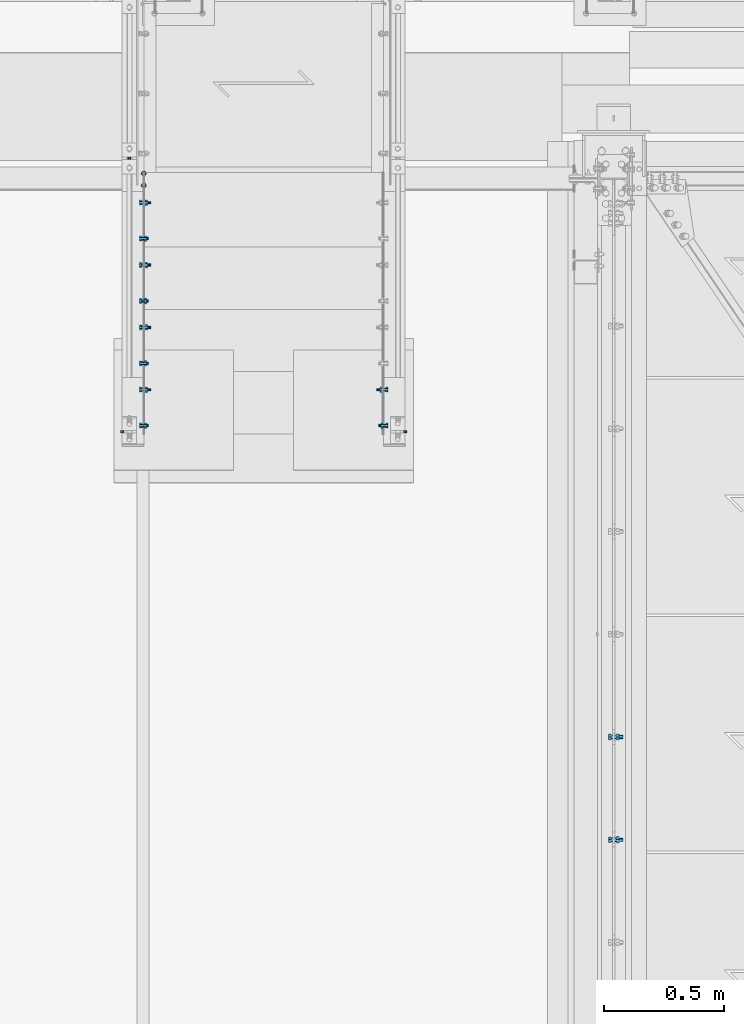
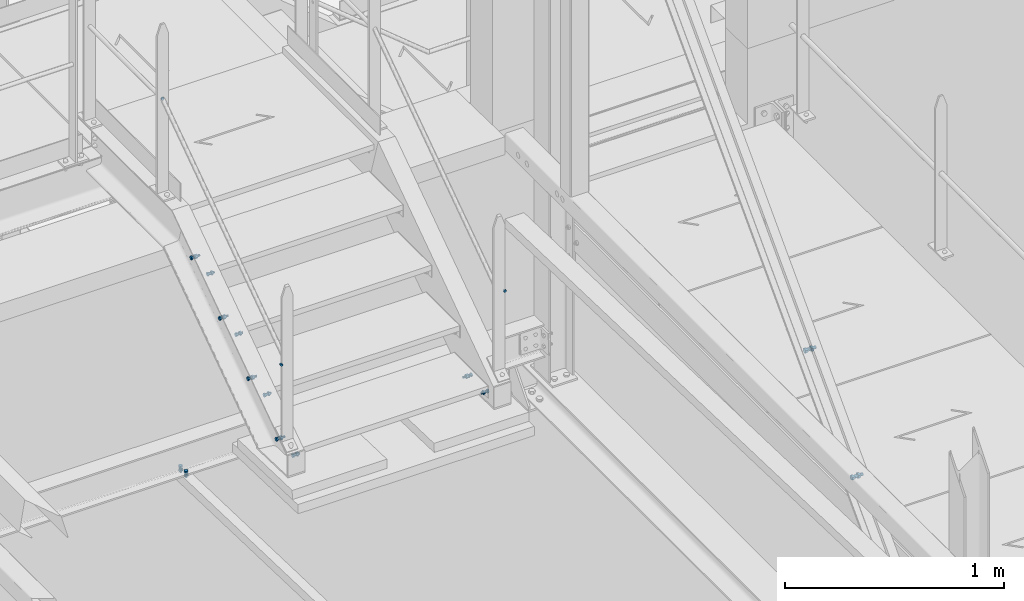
# One storey, part 287 of 362: 16 mechanical fasteners.
"""IFC2X3 building model written with IfcOpenShell, lengths in millimetres."""

from ifc_helpers import new_model, si_unit, frame, frame_2d, origin_with_axes, origin_2d_with_axis, place, context, subcontext, project, spatial, polyline, circle_curve, parameter, trimmed, segment, composite_curve, circle, outline, extrude, source, transform, mapped, material, type_object, element, save


model = new_model("IFC2X3")

# Units and contexts
model_context = context("Model", 3, precision=1e-05, world=origin_with_axes())
body_context = subcontext(model_context, "Body", "Model", "MODEL_VIEW")
ifc_project = project(units=[si_unit("LENGTHUNIT", "METRE", prefix="MILLI"), si_unit("AREAUNIT", "SQUARE_METRE"), si_unit("VOLUMEUNIT", "CUBIC_METRE"), si_unit("MASSUNIT", "GRAM", prefix="KILO"), si_unit("TIMEUNIT", "SECOND"), si_unit("PLANEANGLEUNIT", "RADIAN"), si_unit("SOLIDANGLEUNIT", "STERADIAN"), si_unit("THERMODYNAMICTEMPERATUREUNIT", "DEGREE_CELSIUS"), si_unit("LUMINOUSINTENSITYUNIT", "LUMEN")], contexts=[model_context])

# Site, building, storey
site_placement = place(None, origin_with_axes())
site = spatial("IfcSite", under=ifc_project, at=site_placement, Name="Undefined", CompositionType="ELEMENT")
building_placement = place(site_placement, origin_with_axes())
building = spatial("IfcBuilding", under=site, at=building_placement, Name="Undefined", CompositionType="ELEMENT")
storey_placement = place(building_placement, origin_with_axes())
storey = spatial("IfcBuildingStorey", under=building, at=storey_placement, Name="Undefined", CompositionType="ELEMENT", Elevation=0.0)

# Mechanical fasteners
ifc_material_1 = material(Name="6.8")
mechanical_fastener_type = type_object("IfcMechanicalFastenerType", Name="Bolt assembly")
shared_shape_1 = source(origin_with_axes(), body_context, "Body", "SweptSolid", [
    extrude(circle(Radius=7.0, at=origin_2d_with_axis()), frame((0.0, 6.26397177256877e-05, 0.0), z_axis=(0.0, 1.0, 0.0), x_axis=(1.0, 0.0, 0.0)), (0.0, 0.0, 1.0), 10.1),
])
mechanical_fastener_1_placement = place(storey_placement, frame((21449.9863365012, 15290.0038659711, 9438.8), z_axis=(0.0, 0.0, -1.0), x_axis=(1.0, 0.0, 0.0)))
element("IfcMechanicalFastener", 1, at=mechanical_fastener_1_placement, inside=storey, type_object=mechanical_fastener_type, material=ifc_material_1, Name="Bolt assembly", NominalDiameter=12.0, NominalLength=10.0, context=body_context, shape_type="MappedRepresentation", body=[
    mapped(shared_shape_1, transform((0.0, 0.0, 0.0))),
])
shared_shape_2 = source(origin_with_axes(), body_context, "Body", "SweptSolid", [
    extrude(circle(Radius=7.0, at=origin_2d_with_axis()), frame((0.0, 0.000125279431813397, 0.0), z_axis=(0.0, 1.0, 0.0), x_axis=(1.0, 0.0, 0.0)), (0.0, 0.0, 1.0), 10.1),
])
for number, where, z_axis, x_axis, name in (
    (2, (21419.9864722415, 14149.9999163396, 8654.59997578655), (0.0, 0.0, -1.0), (1.0, 0.0, 0.0), "Bolt assembly"),
    (3, (22599.9935277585, 14149.9999163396, 8654.59997578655), (0.0, 0.0, 1.0), (-1.0, 0.0, 0.0), "Bolt assembly"),
):
    element("IfcMechanicalFastener", number, at=place(storey_placement, frame(where, z_axis=z_axis, x_axis=x_axis)), inside=storey, type_object=mechanical_fastener_type, material=ifc_material_1, Name=name, NominalDiameter=12.0, NominalLength=10.0, context=body_context, shape_type="MappedRepresentation", body=[
        mapped(shared_shape_2, transform((0.0, 0.0, 0.0))),
    ])
ifc_material_2 = material(Name="8.8-SB-GALVA")
shared_shape_3 = source(origin_with_axes(), body_context, "Body", "SweptSolid", [
    extrude(circle(Radius=7.0, at=origin_2d_with_axis()), frame((0.0, -9.89886282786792, 0.0), z_axis=(0.0, 1.0, 0.0), x_axis=(1.0, 0.0, 0.0)), (0.0, 0.0, 1.0), 10.0),
    extrude(circle(Radius=7.0, at=origin_2d_with_axis()), frame((0.0, -0.100011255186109, 0.0), z_axis=(0.0, 1.0, 0.0), x_axis=(1.0, 0.0, 0.0)), (0.0, 0.0, 1.0), 3.1),
    extrude(outline(polyline([(10.39230484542, 0.0), (5.19615242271, 9.00000000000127), (-5.19615242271, 9.00000000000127), (-10.39230484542, 0.0), (-5.19615242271, -9.00000000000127), (5.19615242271, -9.00000000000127), (10.39230484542, 0.0)])), frame((0.0, -17.9188628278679, 0.0), z_axis=(0.0, 1.0, 0.0), x_axis=(1.0, 0.0, 0.0)), (0.0, 0.0, 1.0), 7.92),
    extrude(circle(Radius=6.0, at=origin_2d_with_axis()), frame((0.0, -9.99886282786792, 0.0), z_axis=(0.0, 1.0, 0.0), x_axis=(1.0, 0.0, 0.0)), (0.0, 0.0, 1.0), 30.0),
    extrude(outline(polyline([(11.5008173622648, 0.0), (5.7504086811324, 9.96000000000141), (-5.7504086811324, 9.96000000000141), (-11.5008173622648, 0.0), (-5.7504086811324, -9.96000000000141), (5.7504086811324, -9.96000000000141), (11.5008173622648, 0.0)])), frame((0.0, 3.00000067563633, 0.0), z_axis=(0.0, 1.0, 0.0), x_axis=(1.0, 0.0, 0.0)), (0.0, 0.0, 1.0), 7.92),
])
mechanical_fastener_2_placement = place(storey_placement, frame((22509.9947340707, 14169.9997910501, 8105.0000000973), z_axis=(0.0, 0.0, 1.0), x_axis=(0.0, 1.0, 0.0)))
element("IfcMechanicalFastener", 4, at=mechanical_fastener_2_placement, inside=storey, type_object=mechanical_fastener_type, material=ifc_material_2, Name="Bolt assembly", NominalDiameter=12.0, NominalLength=30.0, context=body_context, shape_type="MappedRepresentation", body=[
    mapped(shared_shape_3, transform((0.0, 0.0, 0.0))),
])
shared_shape_4 = source(origin_with_axes(), body_context, "Body", "SweptSolid", [
    extrude(circle(Radius=7.0, at=origin_2d_with_axis()), frame((0.0, -9.88995939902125, 0.0), z_axis=(0.0, 1.0, 0.0), x_axis=(1.0, 0.0, 0.0)), (0.0, 0.0, 1.0), 10.0),
    extrude(circle(Radius=7.0, at=origin_2d_with_axis()), frame((0.0, -0.100011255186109, 0.0), z_axis=(0.0, 1.0, 0.0), x_axis=(1.0, 0.0, 0.0)), (0.0, 0.0, 1.0), 3.1),
    extrude(outline(polyline([(10.39230484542, 0.0), (5.19615242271, 9.00000000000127), (-5.19615242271, 9.00000000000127), (-10.39230484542, 0.0), (-5.19615242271, -9.00000000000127), (5.19615242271, -9.00000000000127), (10.39230484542, 0.0)])), frame((0.0, -17.9099593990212, 0.0), z_axis=(0.0, 1.0, 0.0), x_axis=(1.0, 0.0, 0.0)), (0.0, 0.0, 1.0), 7.92),
    extrude(circle(Radius=6.0, at=origin_2d_with_axis()), frame((0.0, -9.98995939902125, 0.0), z_axis=(0.0, 1.0, 0.0), x_axis=(1.0, 0.0, 0.0)), (0.0, 0.0, 1.0), 30.0),
    extrude(outline(polyline([(11.5008173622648, 0.0), (5.7504086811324, 9.96000000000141), (-5.7504086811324, 9.96000000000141), (-11.5008173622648, 0.0), (-5.7504086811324, -9.96000000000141), (5.7504086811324, -9.96000000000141), (11.5008173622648, 0.0)])), frame((0.0, 3.00000067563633, 0.0), z_axis=(0.0, 1.0, 0.0), x_axis=(1.0, 0.0, 0.0)), (0.0, 0.0, 1.0), 7.92),
])
mechanical_fastener_3_placement = place(storey_placement, frame((21509.9947340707, 14949.9997910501, 8645.0), z_axis=(0.0, 0.0, -1.0), x_axis=(0.0, 1.0, 0.0)))
element("IfcMechanicalFastener", 5, at=mechanical_fastener_3_placement, inside=storey, type_object=mechanical_fastener_type, material=ifc_material_2, Name="Bolt assembly", NominalDiameter=12.0, NominalLength=30.0, context=body_context, shape_type="MappedRepresentation", body=[
    mapped(shared_shape_4, transform((0.0, 0.0, 0.0))),
])
shared_shape_5 = source(origin_with_axes(), body_context, "Body", "SweptSolid", [
    extrude(circle(Radius=7.0, at=origin_2d_with_axis()), frame((0.0, -9.88941643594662, 0.0), z_axis=(0.0, 1.0, 0.0), x_axis=(1.0, 0.0, 0.0)), (0.0, 0.0, 1.0), 10.0),
    extrude(circle(Radius=7.0, at=origin_2d_with_axis()), frame((0.0, -0.100011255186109, 0.0), z_axis=(0.0, 1.0, 0.0), x_axis=(1.0, 0.0, 0.0)), (0.0, 0.0, 1.0), 3.1),
    extrude(outline(polyline([(10.39230484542, 0.0), (5.19615242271, 9.00000000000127), (-5.19615242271, 9.00000000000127), (-10.39230484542, 0.0), (-5.19615242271, -9.00000000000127), (5.19615242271, -9.00000000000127), (10.39230484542, 0.0)])), frame((0.0, -17.9094164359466, 0.0), z_axis=(0.0, 1.0, 0.0), x_axis=(1.0, 0.0, 0.0)), (0.0, 0.0, 1.0), 7.92),
    extrude(circle(Radius=6.0, at=origin_2d_with_axis()), frame((0.0, -9.98941643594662, 0.0), z_axis=(0.0, 1.0, 0.0), x_axis=(1.0, 0.0, 0.0)), (0.0, 0.0, 1.0), 30.0),
    extrude(outline(polyline([(11.5008173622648, 0.0), (5.7504086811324, 9.96000000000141), (-5.7504086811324, 9.96000000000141), (-11.5008173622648, 0.0), (-5.7504086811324, -9.96000000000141), (5.7504086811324, -9.96000000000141), (11.5008173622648, 0.0)])), frame((0.0, 3.00000067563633, 0.0), z_axis=(0.0, 1.0, 0.0), x_axis=(1.0, 0.0, 0.0)), (0.0, 0.0, 1.0), 7.92),
])
mechanical_fastener_4_placement = place(storey_placement, frame((21509.9947340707, 14689.9997910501, 8465.00000004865), z_axis=(0.0, 0.0, -1.0), x_axis=(0.0, 1.0, 0.0)))
element("IfcMechanicalFastener", 6, at=mechanical_fastener_4_placement, inside=storey, type_object=mechanical_fastener_type, material=ifc_material_2, Name="Bolt assembly", NominalDiameter=12.0, NominalLength=30.0, context=body_context, shape_type="MappedRepresentation", body=[
    mapped(shared_shape_5, transform((0.0, 0.0, 0.0))),
])
shared_shape_6 = source(origin_with_axes(), body_context, "Body", "SweptSolid", [
    extrude(circle(Radius=7.0, at=origin_2d_with_axis()), frame((0.0, -9.888873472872, 0.0), z_axis=(0.0, 1.0, 0.0), x_axis=(1.0, 0.0, 0.0)), (0.0, 0.0, 1.0), 10.0),
    extrude(circle(Radius=7.0, at=origin_2d_with_axis()), frame((0.0, -0.100011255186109, 0.0), z_axis=(0.0, 1.0, 0.0), x_axis=(1.0, 0.0, 0.0)), (0.0, 0.0, 1.0), 3.1),
    extrude(outline(polyline([(10.39230484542, 0.0), (5.19615242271, 9.00000000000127), (-5.19615242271, 9.00000000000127), (-10.39230484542, 0.0), (-5.19615242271, -9.00000000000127), (5.19615242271, -9.00000000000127), (10.39230484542, 0.0)])), frame((0.0, -17.908873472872, 0.0), z_axis=(0.0, 1.0, 0.0), x_axis=(1.0, 0.0, 0.0)), (0.0, 0.0, 1.0), 7.92),
    extrude(circle(Radius=6.0, at=origin_2d_with_axis()), frame((0.0, -9.988873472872, 0.0), z_axis=(0.0, 1.0, 0.0), x_axis=(1.0, 0.0, 0.0)), (0.0, 0.0, 1.0), 30.0),
    extrude(outline(polyline([(11.5008173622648, 0.0), (5.7504086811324, 9.96000000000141), (-5.7504086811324, 9.96000000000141), (-11.5008173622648, 0.0), (-5.7504086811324, -9.96000000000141), (5.7504086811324, -9.96000000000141), (11.5008173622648, 0.0)])), frame((0.0, 3.00000067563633, 0.0), z_axis=(0.0, 1.0, 0.0), x_axis=(1.0, 0.0, 0.0)), (0.0, 0.0, 1.0), 7.92),
])
mechanical_fastener_5_placement = place(storey_placement, frame((21509.9947340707, 14429.9997910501, 8285.00000007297), z_axis=(0.0, 0.0, -1.0), x_axis=(0.0, 1.0, 0.0)))
element("IfcMechanicalFastener", 7, at=mechanical_fastener_5_placement, inside=storey, type_object=mechanical_fastener_type, material=ifc_material_2, Name="Bolt assembly", NominalDiameter=12.0, NominalLength=30.0, context=body_context, shape_type="MappedRepresentation", body=[
    mapped(shared_shape_6, transform((0.0, 0.0, 0.0))),
])
shared_shape_7 = source(origin_with_axes(), body_context, "Body", "SweptSolid", [
    extrude(circle(Radius=7.0, at=origin_2d_with_axis()), frame((0.0, -9.88833050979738, 0.0), z_axis=(0.0, 1.0, 0.0), x_axis=(1.0, 0.0, 0.0)), (0.0, 0.0, 1.0), 10.0),
    extrude(circle(Radius=7.0, at=origin_2d_with_axis()), frame((0.0, -0.100011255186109, 0.0), z_axis=(0.0, 1.0, 0.0), x_axis=(1.0, 0.0, 0.0)), (0.0, 0.0, 1.0), 3.1),
    extrude(outline(polyline([(10.39230484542, 0.0), (5.19615242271, 9.00000000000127), (-5.19615242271, 9.00000000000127), (-10.39230484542, 0.0), (-5.19615242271, -9.00000000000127), (5.19615242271, -9.00000000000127), (10.39230484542, 0.0)])), frame((0.0, -17.9083305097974, 0.0), z_axis=(0.0, 1.0, 0.0), x_axis=(1.0, 0.0, 0.0)), (0.0, 0.0, 1.0), 7.92),
    extrude(circle(Radius=6.0, at=origin_2d_with_axis()), frame((0.0, -9.98833050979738, 0.0), z_axis=(0.0, 1.0, 0.0), x_axis=(1.0, 0.0, 0.0)), (0.0, 0.0, 1.0), 30.0),
    extrude(outline(polyline([(11.5008173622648, 0.0), (5.7504086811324, 9.96000000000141), (-5.7504086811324, 9.96000000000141), (-11.5008173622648, 0.0), (-5.7504086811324, -9.96000000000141), (5.7504086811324, -9.96000000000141), (11.5008173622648, 0.0)])), frame((0.0, 3.00000067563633, 0.0), z_axis=(0.0, 1.0, 0.0), x_axis=(1.0, 0.0, 0.0)), (0.0, 0.0, 1.0), 7.92),
])
mechanical_fastener_6_placement = place(storey_placement, frame((21509.9947340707, 14169.9997910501, 8105.0000000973), z_axis=(0.0, 0.0, -1.0), x_axis=(0.0, 1.0, 0.0)))
element("IfcMechanicalFastener", 8, at=mechanical_fastener_6_placement, inside=storey, type_object=mechanical_fastener_type, material=ifc_material_2, Name="Bolt assembly", NominalDiameter=12.0, NominalLength=30.0, context=body_context, shape_type="MappedRepresentation", body=[
    mapped(shared_shape_7, transform((0.0, 0.0, 0.0))),
])
shared_shape_8 = source(origin_with_axes(), body_context, "Body", "SweptSolid", [
    extrude(circle(Radius=7.0, at=origin_2d_with_axis()), frame((0.0, -9.89886282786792, 0.0), z_axis=(0.0, 1.0, 0.0), x_axis=(1.0, 0.0, 0.0)), (0.0, 0.0, 1.0), 10.0),
    extrude(outline(composite_curve([segment(polyline([(-7.0, 7.0), (7.0, 7.0)]), True, "CONTINUOUS"), segment(trimmed(circle_curve(frame_2d((7.0, 0.0), x_axis=(0.0, 1.0)), 7.0), [parameter(0.0)], [parameter(3.14159265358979)], False, "PARAMETER"), True, "CONTINUOUS"), segment(polyline([(7.0, -7.0), (-7.0, -7.0)]), True, "CONTINUOUS"), segment(trimmed(circle_curve(frame_2d((-7.0, 0.0), x_axis=(0.0, -1.0)), 7.0), [parameter(0.0)], [parameter(3.14159265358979)], False, "PARAMETER"), True, "DISCONTINUOUS")], self_intersect=False)), frame((0.0, -0.100011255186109, 0.0), z_axis=(0.0, 1.0, 0.0), x_axis=(1.0, 0.0, 0.0)), (0.0, 0.0, 1.0), 3.1),
    extrude(outline(polyline([(10.39230484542, 0.0), (5.19615242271, 9.00000000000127), (-5.19615242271, 9.00000000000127), (-10.39230484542, 0.0), (-5.19615242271, -9.00000000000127), (5.19615242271, -9.00000000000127), (10.39230484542, 0.0)])), frame((0.0, -17.9188628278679, 0.0), z_axis=(0.0, 1.0, 0.0), x_axis=(1.0, 0.0, 0.0)), (0.0, 0.0, 1.0), 7.92),
    extrude(circle(Radius=6.0, at=origin_2d_with_axis()), frame((0.0, -9.99886282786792, 0.0), z_axis=(0.0, 1.0, 0.0), x_axis=(1.0, 0.0, 0.0)), (0.0, 0.0, 1.0), 40.0),
    extrude(circle(Radius=10.8, at=origin_2d_with_axis()), frame((0.0, 3.00000067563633, 0.0), z_axis=(0.0, 1.0, 0.0), x_axis=(1.0, 0.0, 0.0)), (0.0, 0.0, 1.0), 3.96),
    extrude(outline(polyline([(11.5008173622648, 0.0), (5.7504086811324, 9.96000000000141), (-5.7504086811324, 9.96000000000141), (-11.5008173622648, 0.0), (-5.7504086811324, -9.96000000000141), (5.7504086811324, -9.96000000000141), (11.5008173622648, 0.0)])), frame((0.0, 6.96, 0.0), z_axis=(0.0, 1.0, 0.0), x_axis=(1.0, 0.0, 0.0)), (0.0, 0.0, 1.0), 7.92),
])
mechanical_fastener_7_placement = place(storey_placement, frame((22509.9947340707, 14319.9997910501, 8105.0000000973), z_axis=(0.0, 0.0, 1.0), x_axis=(0.0, 1.0, 0.0)))
element("IfcMechanicalFastener", 9, at=mechanical_fastener_7_placement, inside=storey, type_object=mechanical_fastener_type, material=ifc_material_2, Name="Bolt assembly", NominalDiameter=12.0, NominalLength=40.0, context=body_context, shape_type="MappedRepresentation", body=[
    mapped(shared_shape_8, transform((0.0, 0.0, 0.0))),
])
shared_shape_9 = source(origin_with_axes(), body_context, "Body", "SweptSolid", [
    extrude(circle(Radius=7.0, at=origin_2d_with_axis()), frame((0.0, -9.88995939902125, 0.0), z_axis=(0.0, 1.0, 0.0), x_axis=(1.0, 0.0, 0.0)), (0.0, 0.0, 1.0), 10.0),
    extrude(outline(composite_curve([segment(polyline([(-7.0, 7.0), (7.0, 7.0)]), True, "CONTINUOUS"), segment(trimmed(circle_curve(frame_2d((7.0, 0.0), x_axis=(0.0, 1.0)), 7.0), [parameter(0.0)], [parameter(3.14159265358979)], False, "PARAMETER"), True, "CONTINUOUS"), segment(polyline([(7.0, -7.0), (-7.0, -7.0)]), True, "CONTINUOUS"), segment(trimmed(circle_curve(frame_2d((-7.0, 0.0), x_axis=(0.0, -1.0)), 7.0), [parameter(0.0)], [parameter(3.14159265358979)], False, "PARAMETER"), True, "DISCONTINUOUS")], self_intersect=False)), frame((0.0, -0.100011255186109, 0.0), z_axis=(0.0, 1.0, 0.0), x_axis=(1.0, 0.0, 0.0)), (0.0, 0.0, 1.0), 3.1),
    extrude(outline(polyline([(10.39230484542, 0.0), (5.19615242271, 9.00000000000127), (-5.19615242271, 9.00000000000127), (-10.39230484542, 0.0), (-5.19615242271, -9.00000000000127), (5.19615242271, -9.00000000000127), (10.39230484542, 0.0)])), frame((0.0, -17.9099593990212, 0.0), z_axis=(0.0, 1.0, 0.0), x_axis=(1.0, 0.0, 0.0)), (0.0, 0.0, 1.0), 7.92),
    extrude(circle(Radius=6.0, at=origin_2d_with_axis()), frame((0.0, -9.98995939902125, 0.0), z_axis=(0.0, 1.0, 0.0), x_axis=(1.0, 0.0, 0.0)), (0.0, 0.0, 1.0), 40.0),
    extrude(circle(Radius=10.8, at=origin_2d_with_axis()), frame((0.0, 3.00000067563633, 0.0), z_axis=(0.0, 1.0, 0.0), x_axis=(1.0, 0.0, 0.0)), (0.0, 0.0, 1.0), 3.96),
    extrude(outline(polyline([(11.5008173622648, 0.0), (5.7504086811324, 9.96000000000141), (-5.7504086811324, 9.96000000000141), (-11.5008173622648, 0.0), (-5.7504086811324, -9.96000000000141), (5.7504086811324, -9.96000000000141), (11.5008173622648, 0.0)])), frame((0.0, 6.96, 0.0), z_axis=(0.0, 1.0, 0.0), x_axis=(1.0, 0.0, 0.0)), (0.0, 0.0, 1.0), 7.92),
])
mechanical_fastener_8_placement = place(storey_placement, frame((21509.9947340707, 15099.9997910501, 8645.0), z_axis=(0.0, 0.0, -1.0), x_axis=(0.0, 1.0, 0.0)))
element("IfcMechanicalFastener", 10, at=mechanical_fastener_8_placement, inside=storey, type_object=mechanical_fastener_type, material=ifc_material_2, Name="Bolt assembly", NominalDiameter=12.0, NominalLength=40.0, context=body_context, shape_type="MappedRepresentation", body=[
    mapped(shared_shape_9, transform((0.0, 0.0, 0.0))),
])
shared_shape_10 = source(origin_with_axes(), body_context, "Body", "SweptSolid", [
    extrude(circle(Radius=7.0, at=origin_2d_with_axis()), frame((0.0, -9.88941643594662, 0.0), z_axis=(0.0, 1.0, 0.0), x_axis=(1.0, 0.0, 0.0)), (0.0, 0.0, 1.0), 10.0),
    extrude(outline(composite_curve([segment(polyline([(-7.0, 7.0), (7.0, 7.0)]), True, "CONTINUOUS"), segment(trimmed(circle_curve(frame_2d((7.0, 0.0), x_axis=(0.0, 1.0)), 7.0), [parameter(0.0)], [parameter(3.14159265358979)], False, "PARAMETER"), True, "CONTINUOUS"), segment(polyline([(7.0, -7.0), (-7.0, -7.0)]), True, "CONTINUOUS"), segment(trimmed(circle_curve(frame_2d((-7.0, 0.0), x_axis=(0.0, -1.0)), 7.0), [parameter(0.0)], [parameter(3.14159265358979)], False, "PARAMETER"), True, "DISCONTINUOUS")], self_intersect=False)), frame((0.0, -0.100011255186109, 0.0), z_axis=(0.0, 1.0, 0.0), x_axis=(1.0, 0.0, 0.0)), (0.0, 0.0, 1.0), 3.1),
    extrude(outline(polyline([(10.39230484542, 0.0), (5.19615242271, 9.00000000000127), (-5.19615242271, 9.00000000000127), (-10.39230484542, 0.0), (-5.19615242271, -9.00000000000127), (5.19615242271, -9.00000000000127), (10.39230484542, 0.0)])), frame((0.0, -17.9094164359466, 0.0), z_axis=(0.0, 1.0, 0.0), x_axis=(1.0, 0.0, 0.0)), (0.0, 0.0, 1.0), 7.92),
    extrude(circle(Radius=6.0, at=origin_2d_with_axis()), frame((0.0, -9.98941643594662, 0.0), z_axis=(0.0, 1.0, 0.0), x_axis=(1.0, 0.0, 0.0)), (0.0, 0.0, 1.0), 40.0),
    extrude(circle(Radius=10.8, at=origin_2d_with_axis()), frame((0.0, 3.00000067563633, 0.0), z_axis=(0.0, 1.0, 0.0), x_axis=(1.0, 0.0, 0.0)), (0.0, 0.0, 1.0), 3.96),
    extrude(outline(polyline([(11.5008173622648, 0.0), (5.7504086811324, 9.96000000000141), (-5.7504086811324, 9.96000000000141), (-11.5008173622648, 0.0), (-5.7504086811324, -9.96000000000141), (5.7504086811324, -9.96000000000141), (11.5008173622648, 0.0)])), frame((0.0, 6.96, 0.0), z_axis=(0.0, 1.0, 0.0), x_axis=(1.0, 0.0, 0.0)), (0.0, 0.0, 1.0), 7.92),
])
mechanical_fastener_9_placement = place(storey_placement, frame((21509.9947340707, 14839.9997910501, 8465.00000004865), z_axis=(0.0, 0.0, -1.0), x_axis=(0.0, 1.0, 0.0)))
element("IfcMechanicalFastener", 11, at=mechanical_fastener_9_placement, inside=storey, type_object=mechanical_fastener_type, material=ifc_material_2, Name="Bolt assembly", NominalDiameter=12.0, NominalLength=40.0, context=body_context, shape_type="MappedRepresentation", body=[
    mapped(shared_shape_10, transform((0.0, 0.0, 0.0))),
])
shared_shape_11 = source(origin_with_axes(), body_context, "Body", "SweptSolid", [
    extrude(circle(Radius=7.0, at=origin_2d_with_axis()), frame((0.0, -9.888873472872, 0.0), z_axis=(0.0, 1.0, 0.0), x_axis=(1.0, 0.0, 0.0)), (0.0, 0.0, 1.0), 10.0),
    extrude(outline(composite_curve([segment(polyline([(-7.0, 7.0), (7.0, 7.0)]), True, "CONTINUOUS"), segment(trimmed(circle_curve(frame_2d((7.0, 0.0), x_axis=(0.0, 1.0)), 7.0), [parameter(0.0)], [parameter(3.14159265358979)], False, "PARAMETER"), True, "CONTINUOUS"), segment(polyline([(7.0, -7.0), (-7.0, -7.0)]), True, "CONTINUOUS"), segment(trimmed(circle_curve(frame_2d((-7.0, 0.0), x_axis=(0.0, -1.0)), 7.0), [parameter(0.0)], [parameter(3.14159265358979)], False, "PARAMETER"), True, "DISCONTINUOUS")], self_intersect=False)), frame((0.0, -0.100011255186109, 0.0), z_axis=(0.0, 1.0, 0.0), x_axis=(1.0, 0.0, 0.0)), (0.0, 0.0, 1.0), 3.1),
    extrude(outline(polyline([(10.39230484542, 0.0), (5.19615242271, 9.00000000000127), (-5.19615242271, 9.00000000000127), (-10.39230484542, 0.0), (-5.19615242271, -9.00000000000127), (5.19615242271, -9.00000000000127), (10.39230484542, 0.0)])), frame((0.0, -17.908873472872, 0.0), z_axis=(0.0, 1.0, 0.0), x_axis=(1.0, 0.0, 0.0)), (0.0, 0.0, 1.0), 7.92),
    extrude(circle(Radius=6.0, at=origin_2d_with_axis()), frame((0.0, -9.988873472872, 0.0), z_axis=(0.0, 1.0, 0.0), x_axis=(1.0, 0.0, 0.0)), (0.0, 0.0, 1.0), 40.0),
    extrude(circle(Radius=10.8, at=origin_2d_with_axis()), frame((0.0, 3.00000067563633, 0.0), z_axis=(0.0, 1.0, 0.0), x_axis=(1.0, 0.0, 0.0)), (0.0, 0.0, 1.0), 3.96),
    extrude(outline(polyline([(11.5008173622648, 0.0), (5.7504086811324, 9.96000000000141), (-5.7504086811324, 9.96000000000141), (-11.5008173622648, 0.0), (-5.7504086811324, -9.96000000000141), (5.7504086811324, -9.96000000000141), (11.5008173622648, 0.0)])), frame((0.0, 6.96, 0.0), z_axis=(0.0, 1.0, 0.0), x_axis=(1.0, 0.0, 0.0)), (0.0, 0.0, 1.0), 7.92),
])
mechanical_fastener_10_placement = place(storey_placement, frame((21509.9947340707, 14579.9997910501, 8285.00000007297), z_axis=(0.0, 0.0, -1.0), x_axis=(0.0, 1.0, 0.0)))
element("IfcMechanicalFastener", 12, at=mechanical_fastener_10_placement, inside=storey, type_object=mechanical_fastener_type, material=ifc_material_2, Name="Bolt assembly", NominalDiameter=12.0, NominalLength=40.0, context=body_context, shape_type="MappedRepresentation", body=[
    mapped(shared_shape_11, transform((0.0, 0.0, 0.0))),
])
shared_shape_12 = source(origin_with_axes(), body_context, "Body", "SweptSolid", [
    extrude(circle(Radius=7.0, at=origin_2d_with_axis()), frame((0.0, -9.88833050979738, 0.0), z_axis=(0.0, 1.0, 0.0), x_axis=(1.0, 0.0, 0.0)), (0.0, 0.0, 1.0), 10.0),
    extrude(outline(composite_curve([segment(polyline([(-7.0, 7.0), (7.0, 7.0)]), True, "CONTINUOUS"), segment(trimmed(circle_curve(frame_2d((7.0, 0.0), x_axis=(0.0, 1.0)), 7.0), [parameter(0.0)], [parameter(3.14159265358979)], False, "PARAMETER"), True, "CONTINUOUS"), segment(polyline([(7.0, -7.0), (-7.0, -7.0)]), True, "CONTINUOUS"), segment(trimmed(circle_curve(frame_2d((-7.0, 0.0), x_axis=(0.0, -1.0)), 7.0), [parameter(0.0)], [parameter(3.14159265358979)], False, "PARAMETER"), True, "DISCONTINUOUS")], self_intersect=False)), frame((0.0, -0.100011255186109, 0.0), z_axis=(0.0, 1.0, 0.0), x_axis=(1.0, 0.0, 0.0)), (0.0, 0.0, 1.0), 3.1),
    extrude(outline(polyline([(10.39230484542, 0.0), (5.19615242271, 9.00000000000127), (-5.19615242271, 9.00000000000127), (-10.39230484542, 0.0), (-5.19615242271, -9.00000000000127), (5.19615242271, -9.00000000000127), (10.39230484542, 0.0)])), frame((0.0, -17.9083305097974, 0.0), z_axis=(0.0, 1.0, 0.0), x_axis=(1.0, 0.0, 0.0)), (0.0, 0.0, 1.0), 7.92),
    extrude(circle(Radius=6.0, at=origin_2d_with_axis()), frame((0.0, -9.98833050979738, 0.0), z_axis=(0.0, 1.0, 0.0), x_axis=(1.0, 0.0, 0.0)), (0.0, 0.0, 1.0), 40.0),
    extrude(circle(Radius=10.8, at=origin_2d_with_axis()), frame((0.0, 3.00000067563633, 0.0), z_axis=(0.0, 1.0, 0.0), x_axis=(1.0, 0.0, 0.0)), (0.0, 0.0, 1.0), 3.96),
    extrude(outline(polyline([(11.5008173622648, 0.0), (5.7504086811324, 9.96000000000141), (-5.7504086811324, 9.96000000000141), (-11.5008173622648, 0.0), (-5.7504086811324, -9.96000000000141), (5.7504086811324, -9.96000000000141), (11.5008173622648, 0.0)])), frame((0.0, 6.96, 0.0), z_axis=(0.0, 1.0, 0.0), x_axis=(1.0, 0.0, 0.0)), (0.0, 0.0, 1.0), 7.92),
])
mechanical_fastener_11_placement = place(storey_placement, frame((21509.9947340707, 14319.9997910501, 8105.0000000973), z_axis=(0.0, 0.0, -1.0), x_axis=(0.0, 1.0, 0.0)))
element("IfcMechanicalFastener", 13, at=mechanical_fastener_11_placement, inside=storey, type_object=mechanical_fastener_type, material=ifc_material_2, Name="Bolt assembly", NominalDiameter=12.0, NominalLength=40.0, context=body_context, shape_type="MappedRepresentation", body=[
    mapped(shared_shape_12, transform((0.0, 0.0, 0.0))),
])
ifc_material_3 = material(Name="8.8-SB-ZINGUE")
shared_shape_13 = source(origin_with_axes(), body_context, "Body", "SweptSolid", [
    extrude(circle(Radius=9.0, at=origin_2d_with_axis()), frame((0.0, -10.9000000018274, 0.0), z_axis=(0.0, 1.0, 0.0), x_axis=(1.0, 0.0, 0.0)), (0.0, 0.0, 1.0), 6.0),
    extrude(circle(Radius=9.0, at=origin_2d_with_axis()), frame((0.0, 4.9000000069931, 0.0), z_axis=(0.0, 1.0, 0.0), x_axis=(1.0, 0.0, 0.0)), (0.0, 0.0, 1.0), 6.1),
    extrude(circle(Radius=9.0, at=origin_2d_with_axis()), frame((0.0, -3.99999923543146, 0.0), z_axis=(0.0, 1.0, 0.0), x_axis=(1.0, 0.0, 0.0)), (0.0, 0.0, 1.0), 8.0),
    extrude(outline(polyline([(13.85640646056, 0.0), (6.92820323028, 12.0000000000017), (-6.92820323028, 12.0000000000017), (-13.85640646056, 0.0), (-6.92820323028, -12.0000000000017), (6.92820323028, -12.0000000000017), (13.85640646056, 0.0)])), frame((0.0, -21.5600000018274, 0.0), z_axis=(0.0, 1.0, 0.0), x_axis=(1.0, 0.0, 0.0)), (0.0, 0.0, 1.0), 10.56),
    extrude(circle(Radius=8.0, at=origin_2d_with_axis()), frame((0.0, -11.0000000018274, 0.0), z_axis=(0.0, 1.0, 0.0), x_axis=(1.0, 0.0, 0.0)), (0.0, 0.0, 1.0), 50.0),
    extrude(outline(polyline([(15.3344231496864, 0.0), (7.6672115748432, 13.2800000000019), (-7.6672115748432, 13.2800000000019), (-15.3344231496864, 0.0), (-7.6672115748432, -13.2800000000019), (7.6672115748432, -13.2800000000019), (15.3344231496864, 0.0)])), frame((0.0, 11.0000000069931, 0.0), z_axis=(0.0, 1.0, 0.0), x_axis=(1.0, 0.0, 0.0)), (0.0, 0.0, 1.0), 10.56),
])
for number, where, z_axis, x_axis, name in (
    (14, (23470.0, 12871.5762046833, 8793.60598386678), (0.0, 1.0, 0.0), (0.0, 0.0, 1.0), "Bolt assembly"),
    (15, (23470.0, 12443.1524084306, 8344.21196859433), (0.0, 1.0, 0.0), (0.0, 0.0, 1.0), "Bolt assembly"),
):
    element("IfcMechanicalFastener", number, at=place(storey_placement, frame(where, z_axis=z_axis, x_axis=x_axis)), inside=storey, type_object=mechanical_fastener_type, material=ifc_material_3, Name=name, NominalDiameter=16.0, NominalLength=50.0, context=body_context, shape_type="MappedRepresentation", body=[
        mapped(shared_shape_13, transform((0.0, 0.0, 0.0))),
    ])
shared_shape_14 = source(origin_with_axes(), body_context, "Body", "SweptSolid", [
    extrude(circle(Radius=7.0, at=origin_2d_with_axis()), frame((0.0, -27.9000123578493, 0.0), z_axis=(0.0, 1.0, 0.0), x_axis=(1.0, 0.0, 0.0)), (0.0, 0.0, 1.0), 8.0),
    extrude(circle(Radius=7.0, at=origin_2d_with_axis()), frame((0.0, -20.0965527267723, 0.0), z_axis=(0.0, 1.0, 0.0), x_axis=(1.0, 0.0, 0.0)), (0.0, 0.0, 1.0), 5.1),
    extrude(outline(polyline([(10.39230484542, 0.0), (5.19615242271, 9.00000000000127), (-5.19615242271, 9.00000000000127), (-10.39230484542, 0.0), (-5.19615242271, -9.00000000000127), (5.19615242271, -9.00000000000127), (10.39230484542, 0.0)])), frame((0.0, -35.9200123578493, 0.0), z_axis=(0.0, 1.0, 0.0), x_axis=(1.0, 0.0, 0.0)), (0.0, 0.0, 1.0), 7.92),
    extrude(circle(Radius=6.0, at=origin_2d_with_axis()), frame((0.0, -28.0000123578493, 0.0), z_axis=(0.0, 1.0, 0.0), x_axis=(1.0, 0.0, 0.0)), (0.0, 0.0, 1.0), 30.0),
    extrude(outline(polyline([(11.5008173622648, 0.0), (5.7504086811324, 9.96000000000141), (-5.7504086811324, 9.96000000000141), (-11.5008173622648, 0.0), (-5.7504086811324, -9.96000000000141), (5.7504086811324, -9.96000000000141), (11.5008173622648, 0.0)])), frame((0.0, -14.9965527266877, 0.0), z_axis=(0.0, 1.0, 0.0), x_axis=(1.0, 0.0, 0.0)), (0.0, 0.0, 1.0), 7.92),
])
mechanical_fastener_12_placement = place(storey_placement, frame((21510.0000126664, 15196.54476598, 7372.33052252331), z_axis=(0.0, -0.999506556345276, 0.031410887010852), x_axis=(-1.0, 0.0, 0.0)))
element("IfcMechanicalFastener", 16, at=mechanical_fastener_12_placement, inside=storey, type_object=mechanical_fastener_type, material=ifc_material_3, Name="Bolt assembly", NominalDiameter=12.0, NominalLength=30.0, context=body_context, shape_type="MappedRepresentation", body=[
    mapped(shared_shape_14, transform((0.0, 0.0, -25.0))),
    mapped(shared_shape_14, transform((0.0, 0.0, 25.0))),
])

save(model, "model.ifc")
